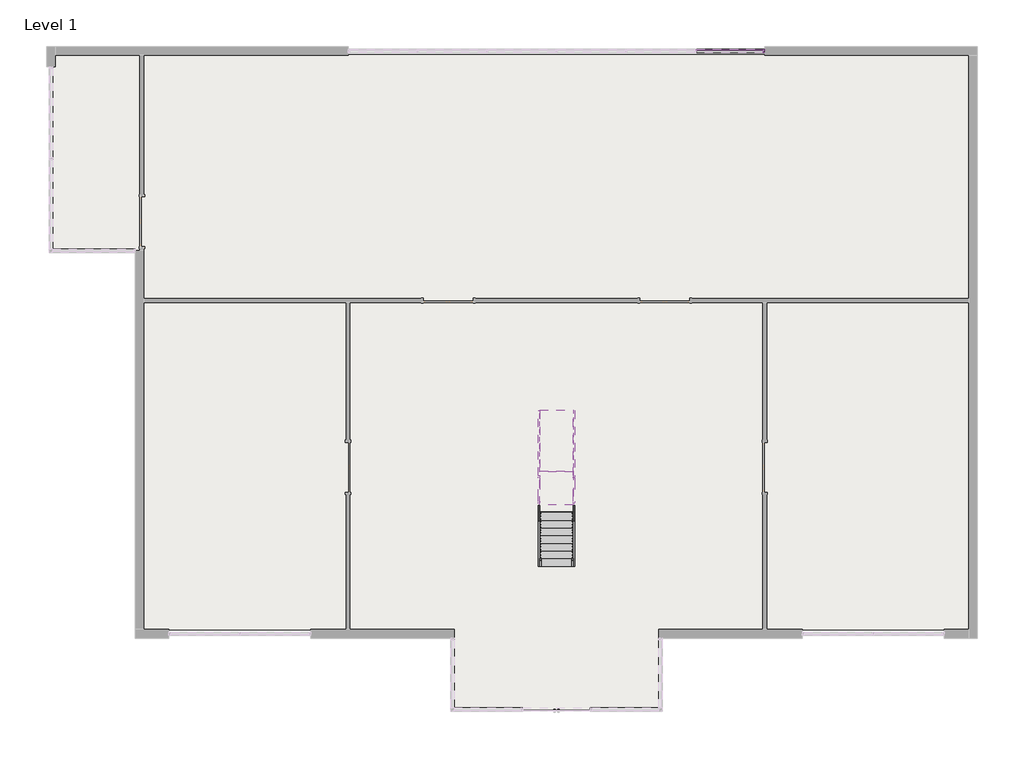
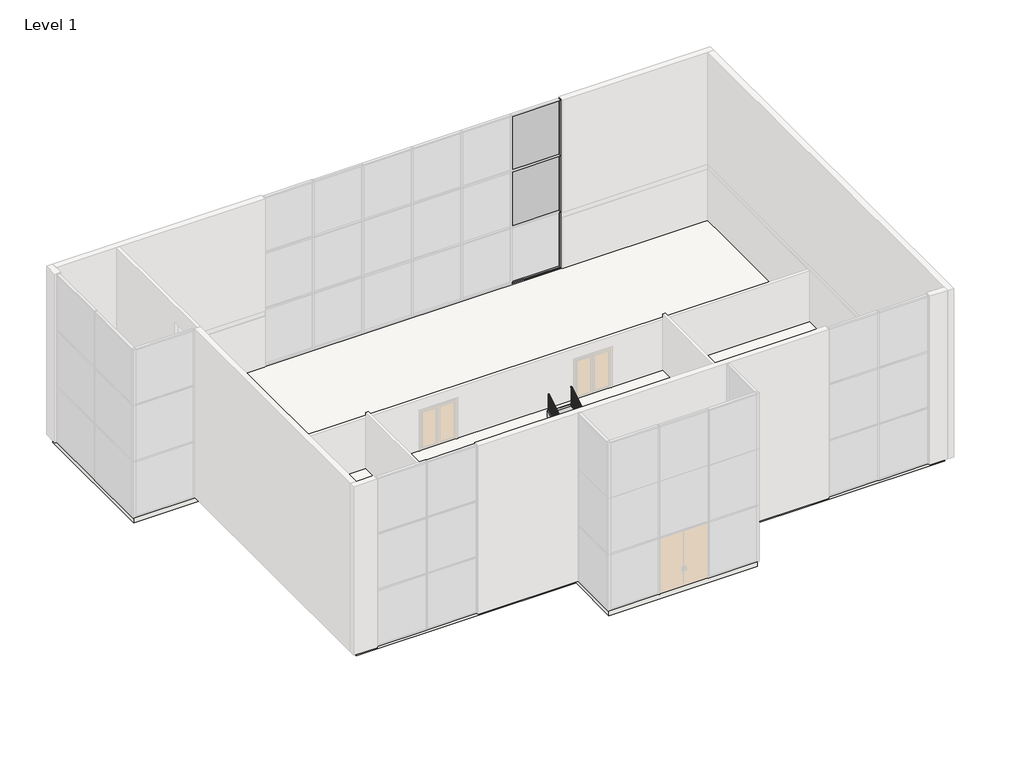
# One storey, part 3 of 3: 10 members, 2 plates, 2 railings, 2 slabs, 2 stair flights.
"""IFC4 building model written with IfcOpenShell, lengths in millimetres."""

from ifc_helpers import new_model, si_unit, frame, origin, place, context, project, spatial, polyline, outline, extrude, faceted_brep, transform, mapped, element, save
from components import member_65a3e7b2, member_3f395ae9, system_panel_glazed_e83c8d5a, system_panel_glazed_f5e36016, non_monolithic_landing_5ceb7bfd, stair_flight_be3a43e4, stair_flight_0bc00e2c

model = new_model("IFC4")

# Units and contexts
model_context = context("Model", 3, world=origin())
ifc_project = project(units=[si_unit("LENGTHUNIT", "METRE", prefix="MILLI")], contexts=[model_context])

# Site, building, storey
site = spatial("IfcSite", under=ifc_project)
building = spatial("IfcBuilding", under=site)
storey = spatial("IfcBuildingStorey", under=building, Name="Level 1", Elevation=0.0)

# Members
placement = place(None, origin())
member_shape = member_65a3e7b2(model_context)
element("IfcMember", 1, ObjectType="Rectangular Mullion : 2.5\" x 5\" rectangular", at=placement, inside=storey, context=model_context, shape_type="MappedRepresentation", body=[
    mapped(member_shape, transform((4467.582618, 15753.5983604, 0.0), x_axis=(0.0, 0.0, -1.0), y_axis=(0.0, 1.0, 0.0), z_axis=(1.0, 0.0, 0.0))),
])
member_2_shape = member_3f395ae9(model_context)
element("IfcMember", 2, ObjectType="Rectangular Mullion : 2.5\" x 5\" rectangular", at=placement, inside=storey, context=model_context, shape_type="MappedRepresentation", body=[
    mapped(member_2_shape, transform((4531.082618, 15753.5983604, 9144.0), x_axis=(1.0, 0.0, 0.0), y_axis=(0.0, 1.0, 0.0), z_axis=(0.0, 0.0, 1.0))),
])
element("IfcMember", 3, ObjectType="Rectangular Mullion : 2.5\" x 5\" rectangular", at=placement, inside=storey, context=model_context, shape_type="MappedRepresentation", body=[
    mapped(member_2_shape, transform((4531.082618, 15753.5983604, 3048.0), x_axis=(1.0, 0.0, 0.0), y_axis=(0.0, 1.0, 0.0), z_axis=(0.0, 0.0, 1.0))),
])
element("IfcMember", 4, ObjectType="Rectangular Mullion : 2.5\" x 5\" rectangular", at=placement, inside=storey, context=model_context, shape_type="MappedRepresentation", body=[
    mapped(member_2_shape, transform((4531.082618, 15753.5983604, 6096.0), x_axis=(1.0, 0.0, 0.0), y_axis=(0.0, 1.0, 0.0), z_axis=(0.0, 0.0, 1.0))),
])
element("IfcMember", 5, ObjectType="Stringer - 2\" Width", at=placement, inside=storey, context=model_context, shape_type="SweptSolid", body=[
    extrude(outline(polyline([(-3106.7224648, 0.0), (-3106.7224648, 212.114512), (-816.3814095, 1600.2), (-731.226953, 1295.4), (-2868.636953, 0.0), (-3106.7224648, 0.0)])), frame((-3749.317382, 0.0, 0.0), z_axis=(1.0, 0.0, 0.0), x_axis=(0.0, 1.0, 0.0)), (0.0, 0.0, 1.0), 50.8),
])
element("IfcMember", 6, ObjectType="Stringer - 2\" Width", at=placement, inside=storey, context=model_context, shape_type="SweptSolid", body=[
    extrude(outline(polyline([(-3106.7224648, 0.0), (-3106.7224648, 212.114512), (-816.3814095, 1600.2), (-731.226953, 1295.4), (-2868.636953, 0.0), (-3106.7224648, 0.0)])), frame((-2479.317382, 0.0, 0.0), z_axis=(1.0, 0.0, 0.0), x_axis=(0.0, 1.0, 0.0)), (0.0, 0.0, 1.0), 50.8),
])
element("IfcMember", 7, ObjectType="Stringer - 2\" Width", at=placement, inside=storey, context=model_context, shape_type="SweptSolid", body=[
    extrude(outline(polyline([(208.573047, 1295.4), (123.4185905, 1600.2), (2582.8775352, 3090.7811786), (2582.8775352, 2734.3724171), (208.573047, 1295.4)])), frame((-3749.317382, 0.0, 0.0), z_axis=(1.0, 0.0, 0.0), x_axis=(0.0, 1.0, 0.0)), (0.0, 0.0, 1.0), 50.8),
])
element("IfcMember", 8, ObjectType="Stringer - 2\" Width", at=placement, inside=storey, context=model_context, shape_type="SweptSolid", body=[
    extrude(outline(polyline([(208.573047, 1295.4), (123.4185905, 1600.2), (2582.8775352, 3090.7811786), (2582.8775352, 2734.3724171), (208.573047, 1295.4)])), frame((-2479.317382, 0.0, 0.0), z_axis=(1.0, 0.0, 0.0), x_axis=(0.0, 1.0, 0.0)), (0.0, 0.0, 1.0), 50.8),
])
element("IfcMember", 9, ObjectType="Stringer - 2\" Width", at=placement, inside=storey, context=model_context, shape_type="SweptSolid", body=[
    extrude(outline(polyline([(123.4185905, 1600.2), (208.573047, 1295.4), (-731.226953, 1295.4), (-816.3814095, 1600.2), (123.4185905, 1600.2)])), frame((-3749.317382, 0.0, 0.0), z_axis=(1.0, 0.0, 0.0), x_axis=(0.0, 1.0, 0.0)), (0.0, 0.0, 1.0), 50.8),
])
element("IfcMember", 10, ObjectType="Stringer - 2\" Width", at=placement, inside=storey, context=model_context, shape_type="SweptSolid", body=[
    extrude(outline(polyline([(-731.226953, 1295.4), (-816.3814095, 1600.2), (123.4185905, 1600.2), (208.573047, 1295.4), (-731.226953, 1295.4)])), frame((-2479.317382, 0.0, 0.0), z_axis=(1.0, 0.0, 0.0), x_axis=(0.0, 1.0, 0.0)), (0.0, 0.0, 1.0), 50.8),
])

# Plates
system_panel_glazed_shape = system_panel_glazed_e83c8d5a(model_context)
element("IfcPlate", 11, ObjectType="System Panel : Glazed", at=placement, inside=storey, context=model_context, shape_type="MappedRepresentation", body=[
    mapped(system_panel_glazed_shape, transform((3245.2076179, 15753.5983604, 6127.75), x_axis=(-1.0, 0.0, 0.0), y_axis=(0.0, -1.0, 0.0), z_axis=(0.0, 0.0, 1.0))),
])
system_panel_glazed_2_shape = system_panel_glazed_f5e36016(model_context)
element("IfcPlate", 12, ObjectType="System Panel : Glazed", at=placement, inside=storey, context=model_context, shape_type="MappedRepresentation", body=[
    mapped(system_panel_glazed_2_shape, transform((3245.2076179, 15753.5983604, 3079.75), x_axis=(-1.0, 0.0, 0.0), y_axis=(0.0, -1.0, 0.0), z_axis=(0.0, 0.0, 1.0))),
])

# Railings
element("IfcRailing", 13, ObjectType="Handrail - Rectangular", at=placement, inside=storey, context=model_context, shape_type="SolidModel", body=[
    faceted_brep([(-2530.117382, -3106.7224648, 1083.7333333), (-2530.117382, -3106.7224648, 1024.3318731), (-2479.317382, -3106.7224648, 1024.3318731), (-2479.317382, -3106.7224648, 1083.7333333), (-2530.117382, -871.5224648, 2438.4), (-2530.117382, -857.3300554, 2387.6), (-2479.317382, -857.3300554, 2387.6), (-2479.317382, -871.5224648, 2438.4), (-2530.117382, 68.2775352, 2438.4), (-2530.117382, 82.4699446, 2387.6), (-2479.317382, 82.4699446, 2387.6), (-2479.317382, 68.2775352, 2438.4), (-2530.117382, 347.6775352, 2607.7333333), (-2530.117382, 374.0072624, 2564.2892835), (-2479.317382, 374.0072624, 2564.2892835), (-2479.317382, 347.6775352, 2607.7333333), (-2530.117382, 2582.8775352, 3962.4), (-2479.317382, 2582.8775352, 3962.4), (-2479.317382, 2582.8775352, 3902.9985397), (-2530.117382, 2582.8775352, 3902.9985397)], [[[0, 1, 2, 3]], [[1, 0, 4, 5]], [[2, 1, 5, 6]], [[3, 2, 6, 7]], [[0, 3, 7, 4]], [[5, 4, 8, 9]], [[6, 5, 9, 10]], [[7, 6, 10, 11]], [[4, 7, 11, 8]], [[9, 8, 12, 13]], [[10, 9, 13, 14]], [[11, 10, 14, 15]], [[8, 11, 15, 12]], [[16, 17, 18, 19]], [[13, 12, 16, 19]], [[14, 13, 19, 18]], [[15, 14, 18, 17]], [[12, 15, 17, 16]]]),
    extrude(outline(polyline([(2471.7525352, 3835.6500549), (2490.8025352, 3847.1955094), (2490.8025352, 2878.6666667), (2471.7525352, 2878.6666667), (2471.7525352, 3835.6500549)])), frame((-2514.242382, 0.0, 0.0), z_axis=(1.0, 0.0, 0.0), x_axis=(0.0, 1.0, 0.0)), (0.0, 0.0, 1.0), 19.05),
    extrude(outline(polyline([(2370.1525352, 3774.0742973), (2389.2025352, 3785.6197519), (2389.2025352, 2878.6666667), (2370.1525352, 2878.6666667), (2370.1525352, 3774.0742973)])), frame((-2514.242382, 0.0, 0.0), z_axis=(1.0, 0.0, 0.0), x_axis=(0.0, 1.0, 0.0)), (0.0, 0.0, 1.0), 19.05),
    extrude(outline(polyline([(2268.5525352, 3712.4985397), (2287.6025352, 3724.0439943), (2287.6025352, 2709.3333333), (2268.5525352, 2709.3333333), (2268.5525352, 3712.4985397)])), frame((-2514.242382, 0.0, 0.0), z_axis=(1.0, 0.0, 0.0), x_axis=(0.0, 1.0, 0.0)), (0.0, 0.0, 1.0), 19.05),
    extrude(outline(polyline([(2166.9525352, 3650.9227822), (2186.0025352, 3662.4682367), (2186.0025352, 2709.3333333), (2166.9525352, 2709.3333333), (2166.9525352, 3650.9227822)])), frame((-2514.242382, 0.0, 0.0), z_axis=(1.0, 0.0, 0.0), x_axis=(0.0, 1.0, 0.0)), (0.0, 0.0, 1.0), 19.05),
    extrude(outline(polyline([(2065.3525352, 3589.3470246), (2084.4025352, 3600.8924791), (2084.4025352, 2709.3333333), (2065.3525352, 2709.3333333), (2065.3525352, 3589.3470246)])), frame((-2514.242382, 0.0, 0.0), z_axis=(1.0, 0.0, 0.0), x_axis=(0.0, 1.0, 0.0)), (0.0, 0.0, 1.0), 19.05),
    extrude(outline(polyline([(1963.7525352, 3527.771267), (1982.8025352, 3539.3167216), (1982.8025352, 2540.0), (1963.7525352, 2540.0), (1963.7525352, 3527.771267)])), frame((-2514.242382, 0.0, 0.0), z_axis=(1.0, 0.0, 0.0), x_axis=(0.0, 1.0, 0.0)), (0.0, 0.0, 1.0), 19.05),
    extrude(outline(polyline([(1862.1525352, 3466.1955094), (1881.2025352, 3477.740964), (1881.2025352, 2540.0), (1862.1525352, 2540.0), (1862.1525352, 3466.1955094)])), frame((-2514.242382, 0.0, 0.0), z_axis=(1.0, 0.0, 0.0), x_axis=(0.0, 1.0, 0.0)), (0.0, 0.0, 1.0), 19.05),
    extrude(outline(polyline([(1760.5525352, 3404.6197519), (1779.6025352, 3416.1652064), (1779.6025352, 2540.0), (1760.5525352, 2540.0), (1760.5525352, 3404.6197519)])), frame((-2514.242382, 0.0, 0.0), z_axis=(1.0, 0.0, 0.0), x_axis=(0.0, 1.0, 0.0)), (0.0, 0.0, 1.0), 19.05),
    extrude(outline(polyline([(1658.9525352, 3343.0439943), (1678.0025352, 3354.5894488), (1678.0025352, 2370.6666667), (1658.9525352, 2370.6666667), (1658.9525352, 3343.0439943)])), frame((-2514.242382, 0.0, 0.0), z_axis=(1.0, 0.0, 0.0), x_axis=(0.0, 1.0, 0.0)), (0.0, 0.0, 1.0), 19.05),
    extrude(outline(polyline([(1557.3525352, 3281.4682367), (1576.4025352, 3293.0136913), (1576.4025352, 2370.6666667), (1557.3525352, 2370.6666667), (1557.3525352, 3281.4682367)])), frame((-2514.242382, 0.0, 0.0), z_axis=(1.0, 0.0, 0.0), x_axis=(0.0, 1.0, 0.0)), (0.0, 0.0, 1.0), 19.05),
    extrude(outline(polyline([(1455.7525352, 3219.8924791), (1474.8025352, 3231.4379337), (1474.8025352, 2370.6666667), (1455.7525352, 2370.6666667), (1455.7525352, 3219.8924791)])), frame((-2514.242382, 0.0, 0.0), z_axis=(1.0, 0.0, 0.0), x_axis=(0.0, 1.0, 0.0)), (0.0, 0.0, 1.0), 19.05),
    extrude(outline(polyline([(1354.1525352, 3158.3167216), (1373.2025352, 3169.8621761), (1373.2025352, 2201.3333333), (1354.1525352, 2201.3333333), (1354.1525352, 3158.3167216)])), frame((-2514.242382, 0.0, 0.0), z_axis=(1.0, 0.0, 0.0), x_axis=(0.0, 1.0, 0.0)), (0.0, 0.0, 1.0), 19.05),
    extrude(outline(polyline([(1252.5525352, 3096.740964), (1271.6025352, 3108.2864185), (1271.6025352, 2201.3333333), (1252.5525352, 2201.3333333), (1252.5525352, 3096.740964)])), frame((-2514.242382, 0.0, 0.0), z_axis=(1.0, 0.0, 0.0), x_axis=(0.0, 1.0, 0.0)), (0.0, 0.0, 1.0), 19.05),
    extrude(outline(polyline([(1150.9525352, 3035.1652064), (1170.0025352, 3046.710661), (1170.0025352, 2032.0), (1150.9525352, 2032.0), (1150.9525352, 3035.1652064)])), frame((-2514.242382, 0.0, 0.0), z_axis=(1.0, 0.0, 0.0), x_axis=(0.0, 1.0, 0.0)), (0.0, 0.0, 1.0), 19.05),
    extrude(outline(polyline([(1049.3525352, 2973.5894488), (1068.4025352, 2985.1349034), (1068.4025352, 2032.0), (1049.3525352, 2032.0), (1049.3525352, 2973.5894488)])), frame((-2514.242382, 0.0, 0.0), z_axis=(1.0, 0.0, 0.0), x_axis=(0.0, 1.0, 0.0)), (0.0, 0.0, 1.0), 19.05),
    extrude(outline(polyline([(947.7525352, 2912.0136913), (966.8025352, 2923.5591458), (966.8025352, 2032.0), (947.7525352, 2032.0), (947.7525352, 2912.0136913)])), frame((-2514.242382, 0.0, 0.0), z_axis=(1.0, 0.0, 0.0), x_axis=(0.0, 1.0, 0.0)), (0.0, 0.0, 1.0), 19.05),
    extrude(outline(polyline([(846.1525352, 2850.4379337), (865.2025352, 2861.9833882), (865.2025352, 1862.6666667), (846.1525352, 1862.6666667), (846.1525352, 2850.4379337)])), frame((-2514.242382, 0.0, 0.0), z_axis=(1.0, 0.0, 0.0), x_axis=(0.0, 1.0, 0.0)), (0.0, 0.0, 1.0), 19.05),
    extrude(outline(polyline([(744.5525352, 2788.8621761), (763.6025352, 2800.4076307), (763.6025352, 1862.6666667), (744.5525352, 1862.6666667), (744.5525352, 2788.8621761)])), frame((-2514.242382, 0.0, 0.0), z_axis=(1.0, 0.0, 0.0), x_axis=(0.0, 1.0, 0.0)), (0.0, 0.0, 1.0), 19.05),
    extrude(outline(polyline([(642.9525352, 2727.2864185), (662.0025352, 2738.8318731), (662.0025352, 1862.6666667), (642.9525352, 1862.6666667), (642.9525352, 2727.2864185)])), frame((-2514.242382, 0.0, 0.0), z_axis=(1.0, 0.0, 0.0), x_axis=(0.0, 1.0, 0.0)), (0.0, 0.0, 1.0), 19.05),
    extrude(outline(polyline([(541.3525352, 2665.710661), (560.4025352, 2677.2561155), (560.4025352, 1693.3333333), (541.3525352, 1693.3333333), (541.3525352, 2665.710661)])), frame((-2514.242382, 0.0, 0.0), z_axis=(1.0, 0.0, 0.0), x_axis=(0.0, 1.0, 0.0)), (0.0, 0.0, 1.0), 19.05),
    extrude(outline(polyline([(439.7525352, 2604.1349034), (458.8025352, 2615.6803579), (458.8025352, 1693.3333333), (439.7525352, 1693.3333333), (439.7525352, 2604.1349034)])), frame((-2514.242382, 0.0, 0.0), z_axis=(1.0, 0.0, 0.0), x_axis=(0.0, 1.0, 0.0)), (0.0, 0.0, 1.0), 19.05),
    extrude(outline(polyline([(236.5525352, 2480.9833882), (255.6025352, 2492.5288428), (255.6025352, 1524.0), (236.5525352, 1524.0), (236.5525352, 2480.9833882)])), frame((-2514.242382, 0.0, 0.0), z_axis=(1.0, 0.0, 0.0), x_axis=(0.0, 1.0, 0.0)), (0.0, 0.0, 1.0), 19.05),
    extrude(outline(polyline([(134.9525352, 2419.4076307), (154.0025352, 2430.9530852), (154.0025352, 1524.0), (134.9525352, 1524.0), (134.9525352, 2419.4076307)])), frame((-2514.242382, 0.0, 0.0), z_axis=(1.0, 0.0, 0.0), x_axis=(0.0, 1.0, 0.0)), (0.0, 0.0, 1.0), 19.05),
    extrude(outline(polyline([(-2495.192382, 33.3525352), (-2514.242382, 33.3525352), (-2514.242382, 52.4025352), (-2495.192382, 52.4025352), (-2495.192382, 33.3525352)])), frame((0.0, 0.0, 1524.0), z_axis=(0.0, 0.0, 1.0), x_axis=(1.0, 0.0, 0.0)), (0.0, 0.0, 1.0), 863.6),
    extrude(outline(polyline([(-2495.192382, -68.2474648), (-2514.242382, -68.2474648), (-2514.242382, -49.1974648), (-2495.192382, -49.1974648), (-2495.192382, -68.2474648)])), frame((0.0, 0.0, 1524.0), z_axis=(0.0, 0.0, 1.0), x_axis=(1.0, 0.0, 0.0)), (0.0, 0.0, 1.0), 863.6),
    extrude(outline(polyline([(-2495.192382, -169.8474648), (-2514.242382, -169.8474648), (-2514.242382, -150.7974648), (-2495.192382, -150.7974648), (-2495.192382, -169.8474648)])), frame((0.0, 0.0, 1524.0), z_axis=(0.0, 0.0, 1.0), x_axis=(1.0, 0.0, 0.0)), (0.0, 0.0, 1.0), 863.6),
    extrude(outline(polyline([(-2495.192382, -271.4474648), (-2514.242382, -271.4474648), (-2514.242382, -252.3974648), (-2495.192382, -252.3974648), (-2495.192382, -271.4474648)])), frame((0.0, 0.0, 1524.0), z_axis=(0.0, 0.0, 1.0), x_axis=(1.0, 0.0, 0.0)), (0.0, 0.0, 1.0), 863.6),
    extrude(outline(polyline([(-2495.192382, -373.0474648), (-2514.242382, -373.0474648), (-2514.242382, -353.9974648), (-2495.192382, -353.9974648), (-2495.192382, -373.0474648)])), frame((0.0, 0.0, 1524.0), z_axis=(0.0, 0.0, 1.0), x_axis=(1.0, 0.0, 0.0)), (0.0, 0.0, 1.0), 863.6),
    extrude(outline(polyline([(-2495.192382, -474.6474648), (-2514.242382, -474.6474648), (-2514.242382, -455.5974648), (-2495.192382, -455.5974648), (-2495.192382, -474.6474648)])), frame((0.0, 0.0, 1524.0), z_axis=(0.0, 0.0, 1.0), x_axis=(1.0, 0.0, 0.0)), (0.0, 0.0, 1.0), 863.6),
    extrude(outline(polyline([(-2495.192382, -576.2474648), (-2514.242382, -576.2474648), (-2514.242382, -557.1974648), (-2495.192382, -557.1974648), (-2495.192382, -576.2474648)])), frame((0.0, 0.0, 1524.0), z_axis=(0.0, 0.0, 1.0), x_axis=(1.0, 0.0, 0.0)), (0.0, 0.0, 1.0), 863.6),
    extrude(outline(polyline([(-2495.192382, -677.8474648), (-2514.242382, -677.8474648), (-2514.242382, -658.7974648), (-2495.192382, -658.7974648), (-2495.192382, -677.8474648)])), frame((0.0, 0.0, 1524.0), z_axis=(0.0, 0.0, 1.0), x_axis=(1.0, 0.0, 0.0)), (0.0, 0.0, 1.0), 863.6),
    extrude(outline(polyline([(-2495.192382, -779.4474648), (-2514.242382, -779.4474648), (-2514.242382, -760.3974648), (-2495.192382, -760.3974648), (-2495.192382, -779.4474648)])), frame((0.0, 0.0, 1524.0), z_axis=(0.0, 0.0, 1.0), x_axis=(1.0, 0.0, 0.0)), (0.0, 0.0, 1.0), 863.6),
    extrude(outline(polyline([(-982.6474648, 2311.6500549), (-963.5974648, 2323.1955094), (-963.5974648, 1354.6666667), (-982.6474648, 1354.6666667), (-982.6474648, 2311.6500549)])), frame((-2514.242382, 0.0, 0.0), z_axis=(1.0, 0.0, 0.0), x_axis=(0.0, 1.0, 0.0)), (0.0, 0.0, 1.0), 19.05),
    extrude(outline(polyline([(-1084.2474648, 2250.0742973), (-1065.1974648, 2261.6197519), (-1065.1974648, 1354.6666667), (-1084.2474648, 1354.6666667), (-1084.2474648, 2250.0742973)])), frame((-2514.242382, 0.0, 0.0), z_axis=(1.0, 0.0, 0.0), x_axis=(0.0, 1.0, 0.0)), (0.0, 0.0, 1.0), 19.05),
    extrude(outline(polyline([(-1185.8474648, 2188.4985397), (-1166.7974648, 2200.0439943), (-1166.7974648, 1185.3333333), (-1185.8474648, 1185.3333333), (-1185.8474648, 2188.4985397)])), frame((-2514.242382, 0.0, 0.0), z_axis=(1.0, 0.0, 0.0), x_axis=(0.0, 1.0, 0.0)), (0.0, 0.0, 1.0), 19.05),
    extrude(outline(polyline([(-1287.4474648, 2126.9227822), (-1268.3974648, 2138.4682367), (-1268.3974648, 1185.3333333), (-1287.4474648, 1185.3333333), (-1287.4474648, 2126.9227822)])), frame((-2514.242382, 0.0, 0.0), z_axis=(1.0, 0.0, 0.0), x_axis=(0.0, 1.0, 0.0)), (0.0, 0.0, 1.0), 19.05),
    extrude(outline(polyline([(-1389.0474648, 2065.3470246), (-1369.9974648, 2076.8924791), (-1369.9974648, 1185.3333333), (-1389.0474648, 1185.3333333), (-1389.0474648, 2065.3470246)])), frame((-2514.242382, 0.0, 0.0), z_axis=(1.0, 0.0, 0.0), x_axis=(0.0, 1.0, 0.0)), (0.0, 0.0, 1.0), 19.05),
    extrude(outline(polyline([(-1490.6474648, 2003.771267), (-1471.5974648, 2015.3167216), (-1471.5974648, 1016.0), (-1490.6474648, 1016.0), (-1490.6474648, 2003.771267)])), frame((-2514.242382, 0.0, 0.0), z_axis=(1.0, 0.0, 0.0), x_axis=(0.0, 1.0, 0.0)), (0.0, 0.0, 1.0), 19.05),
    extrude(outline(polyline([(-1592.2474648, 1942.1955094), (-1573.1974648, 1953.740964), (-1573.1974648, 1016.0), (-1592.2474648, 1016.0), (-1592.2474648, 1942.1955094)])), frame((-2514.242382, 0.0, 0.0), z_axis=(1.0, 0.0, 0.0), x_axis=(0.0, 1.0, 0.0)), (0.0, 0.0, 1.0), 19.05),
    extrude(outline(polyline([(-1693.8474648, 1880.6197519), (-1674.7974648, 1892.1652064), (-1674.7974648, 1016.0), (-1693.8474648, 1016.0), (-1693.8474648, 1880.6197519)])), frame((-2514.242382, 0.0, 0.0), z_axis=(1.0, 0.0, 0.0), x_axis=(0.0, 1.0, 0.0)), (0.0, 0.0, 1.0), 19.05),
    extrude(outline(polyline([(-1795.4474648, 1819.0439943), (-1776.3974648, 1830.5894488), (-1776.3974648, 846.6666667), (-1795.4474648, 846.6666667), (-1795.4474648, 1819.0439943)])), frame((-2514.242382, 0.0, 0.0), z_axis=(1.0, 0.0, 0.0), x_axis=(0.0, 1.0, 0.0)), (0.0, 0.0, 1.0), 19.05),
    extrude(outline(polyline([(-1897.0474648, 1757.4682367), (-1877.9974648, 1769.0136913), (-1877.9974648, 846.6666667), (-1897.0474648, 846.6666667), (-1897.0474648, 1757.4682367)])), frame((-2514.242382, 0.0, 0.0), z_axis=(1.0, 0.0, 0.0), x_axis=(0.0, 1.0, 0.0)), (0.0, 0.0, 1.0), 19.05),
    extrude(outline(polyline([(-1998.6474648, 1695.8924791), (-1979.5974648, 1707.4379337), (-1979.5974648, 846.6666667), (-1998.6474648, 846.6666667), (-1998.6474648, 1695.8924791)])), frame((-2514.242382, 0.0, 0.0), z_axis=(1.0, 0.0, 0.0), x_axis=(0.0, 1.0, 0.0)), (0.0, 0.0, 1.0), 19.05),
    extrude(outline(polyline([(-2100.2474648, 1634.3167216), (-2081.1974648, 1645.8621761), (-2081.1974648, 677.3333333), (-2100.2474648, 677.3333333), (-2100.2474648, 1634.3167216)])), frame((-2514.242382, 0.0, 0.0), z_axis=(1.0, 0.0, 0.0), x_axis=(0.0, 1.0, 0.0)), (0.0, 0.0, 1.0), 19.05),
    extrude(outline(polyline([(-2201.8474648, 1572.740964), (-2182.7974648, 1584.2864185), (-2182.7974648, 677.3333333), (-2201.8474648, 677.3333333), (-2201.8474648, 1572.740964)])), frame((-2514.242382, 0.0, 0.0), z_axis=(1.0, 0.0, 0.0), x_axis=(0.0, 1.0, 0.0)), (0.0, 0.0, 1.0), 19.05),
    extrude(outline(polyline([(-2303.4474648, 1511.1652064), (-2284.3974648, 1522.710661), (-2284.3974648, 508.0), (-2303.4474648, 508.0), (-2303.4474648, 1511.1652064)])), frame((-2514.242382, 0.0, 0.0), z_axis=(1.0, 0.0, 0.0), x_axis=(0.0, 1.0, 0.0)), (0.0, 0.0, 1.0), 19.05),
    extrude(outline(polyline([(-2405.0474648, 1449.5894488), (-2385.9974648, 1461.1349034), (-2385.9974648, 508.0), (-2405.0474648, 508.0), (-2405.0474648, 1449.5894488)])), frame((-2514.242382, 0.0, 0.0), z_axis=(1.0, 0.0, 0.0), x_axis=(0.0, 1.0, 0.0)), (0.0, 0.0, 1.0), 19.05),
    extrude(outline(polyline([(-2506.6474648, 1388.0136913), (-2487.5974648, 1399.5591458), (-2487.5974648, 508.0), (-2506.6474648, 508.0), (-2506.6474648, 1388.0136913)])), frame((-2514.242382, 0.0, 0.0), z_axis=(1.0, 0.0, 0.0), x_axis=(0.0, 1.0, 0.0)), (0.0, 0.0, 1.0), 19.05),
    extrude(outline(polyline([(-2608.2474648, 1326.4379337), (-2589.1974648, 1337.9833882), (-2589.1974648, 338.6666667), (-2608.2474648, 338.6666667), (-2608.2474648, 1326.4379337)])), frame((-2514.242382, 0.0, 0.0), z_axis=(1.0, 0.0, 0.0), x_axis=(0.0, 1.0, 0.0)), (0.0, 0.0, 1.0), 19.05),
    extrude(outline(polyline([(-2709.8474648, 1264.8621761), (-2690.7974648, 1276.4076307), (-2690.7974648, 338.6666667), (-2709.8474648, 338.6666667), (-2709.8474648, 1264.8621761)])), frame((-2514.242382, 0.0, 0.0), z_axis=(1.0, 0.0, 0.0), x_axis=(0.0, 1.0, 0.0)), (0.0, 0.0, 1.0), 19.05),
    extrude(outline(polyline([(-2811.4474648, 1203.2864185), (-2792.3974648, 1214.8318731), (-2792.3974648, 338.6666667), (-2811.4474648, 338.6666667), (-2811.4474648, 1203.2864185)])), frame((-2514.242382, 0.0, 0.0), z_axis=(1.0, 0.0, 0.0), x_axis=(0.0, 1.0, 0.0)), (0.0, 0.0, 1.0), 19.05),
    extrude(outline(polyline([(-2913.0474648, 1141.710661), (-2893.9974648, 1153.2561155), (-2893.9974648, 169.3333333), (-2913.0474648, 169.3333333), (-2913.0474648, 1141.710661)])), frame((-2514.242382, 0.0, 0.0), z_axis=(1.0, 0.0, 0.0), x_axis=(0.0, 1.0, 0.0)), (0.0, 0.0, 1.0), 19.05),
    extrude(outline(polyline([(-3014.6474648, 1080.1349034), (-2995.5974648, 1091.6803579), (-2995.5974648, 169.3333333), (-3014.6474648, 169.3333333), (-3014.6474648, 1080.1349034)])), frame((-2514.242382, 0.0, 0.0), z_axis=(1.0, 0.0, 0.0), x_axis=(0.0, 1.0, 0.0)), (0.0, 0.0, 1.0), 19.05),
    extrude(outline(polyline([(338.1525352, 2542.5591458), (357.2025352, 2554.1046004), (357.2025352, 1524.0), (338.1525352, 1524.0), (338.1525352, 2542.5591458)])), frame((-2514.242382, 0.0, 0.0), z_axis=(1.0, 0.0, 0.0), x_axis=(0.0, 1.0, 0.0)), (0.0, 0.0, 1.0), 19.05),
    extrude(outline(polyline([(-881.0474648, 2373.2258125), (-861.9974648, 2384.771267), (-861.9974648, 1524.0), (-881.0474648, 1524.0), (-881.0474648, 2373.2258125)])), frame((-2514.242382, 0.0, 0.0), z_axis=(1.0, 0.0, 0.0), x_axis=(0.0, 1.0, 0.0)), (0.0, 0.0, 1.0), 19.05),
    extrude(outline(polyline([(2563.8275352, 3891.4530852), (2582.8775352, 3902.9985397), (2582.8775352, 2878.6666667), (2563.8275352, 2878.6666667), (2563.8275352, 3891.4530852)])), frame((-2514.242382, 0.0, 0.0), z_axis=(1.0, 0.0, 0.0), x_axis=(0.0, 1.0, 0.0)), (0.0, 0.0, 1.0), 19.05),
    extrude(outline(polyline([(-3106.7224648, 1024.3318731), (-3087.6724648, 1035.8773276), (-3087.6724648, 169.3333333), (-3106.7224648, 169.3333333), (-3106.7224648, 1024.3318731)])), frame((-2514.242382, 0.0, 0.0), z_axis=(1.0, 0.0, 0.0), x_axis=(0.0, 1.0, 0.0)), (0.0, 0.0, 1.0), 19.05),
])
element("IfcRailing", 14, ObjectType="Handrail - Rectangular", at=placement, inside=storey, context=model_context, shape_type="SolidModel", body=[
    faceted_brep([(-3698.517382, -3106.7224648, 1083.7333333), (-3698.517382, -3106.7224648, 1024.3318731), (-3647.717382, -3106.7224648, 1024.3318731), (-3647.717382, -3106.7224648, 1083.7333333), (-3698.517382, -871.5224648, 2438.4), (-3698.517382, -857.3300554, 2387.6), (-3647.717382, -857.3300554, 2387.6), (-3647.717382, -871.5224648, 2438.4), (-3698.517382, 68.2775352, 2438.4), (-3698.517382, 82.4699446, 2387.6), (-3647.717382, 82.4699446, 2387.6), (-3647.717382, 68.2775352, 2438.4), (-3698.517382, 347.6775352, 2607.7333333), (-3698.517382, 374.0072624, 2564.2892835), (-3647.717382, 374.0072624, 2564.2892835), (-3647.717382, 347.6775352, 2607.7333333), (-3698.517382, 2582.8775352, 3962.4), (-3647.717382, 2582.8775352, 3962.4), (-3647.717382, 2582.8775352, 3902.9985397), (-3698.517382, 2582.8775352, 3902.9985397)], [[[0, 1, 2, 3]], [[1, 0, 4, 5]], [[2, 1, 5, 6]], [[3, 2, 6, 7]], [[0, 3, 7, 4]], [[5, 4, 8, 9]], [[6, 5, 9, 10]], [[7, 6, 10, 11]], [[4, 7, 11, 8]], [[9, 8, 12, 13]], [[10, 9, 13, 14]], [[11, 10, 14, 15]], [[8, 11, 15, 12]], [[16, 17, 18, 19]], [[13, 12, 16, 19]], [[14, 13, 19, 18]], [[15, 14, 18, 17]], [[12, 15, 17, 16]]]),
    extrude(outline(polyline([(2490.8025352, 3847.1955094), (2490.8025352, 2878.6666667), (2471.7525352, 2878.6666667), (2471.7525352, 3835.6500549), (2490.8025352, 3847.1955094)])), frame((-3682.642382, 0.0, 0.0), z_axis=(1.0, 0.0, 0.0), x_axis=(0.0, 1.0, 0.0)), (0.0, 0.0, 1.0), 19.05),
    extrude(outline(polyline([(2389.2025352, 3785.6197519), (2389.2025352, 2878.6666667), (2370.1525352, 2878.6666667), (2370.1525352, 3774.0742973), (2389.2025352, 3785.6197519)])), frame((-3682.642382, 0.0, 0.0), z_axis=(1.0, 0.0, 0.0), x_axis=(0.0, 1.0, 0.0)), (0.0, 0.0, 1.0), 19.05),
    extrude(outline(polyline([(2287.6025352, 3724.0439943), (2287.6025352, 2709.3333333), (2268.5525352, 2709.3333333), (2268.5525352, 3712.4985397), (2287.6025352, 3724.0439943)])), frame((-3682.642382, 0.0, 0.0), z_axis=(1.0, 0.0, 0.0), x_axis=(0.0, 1.0, 0.0)), (0.0, 0.0, 1.0), 19.05),
    extrude(outline(polyline([(2186.0025352, 3662.4682367), (2186.0025352, 2709.3333333), (2166.9525352, 2709.3333333), (2166.9525352, 3650.9227822), (2186.0025352, 3662.4682367)])), frame((-3682.642382, 0.0, 0.0), z_axis=(1.0, 0.0, 0.0), x_axis=(0.0, 1.0, 0.0)), (0.0, 0.0, 1.0), 19.05),
    extrude(outline(polyline([(2084.4025352, 3600.8924791), (2084.4025352, 2709.3333333), (2065.3525352, 2709.3333333), (2065.3525352, 3589.3470246), (2084.4025352, 3600.8924791)])), frame((-3682.642382, 0.0, 0.0), z_axis=(1.0, 0.0, 0.0), x_axis=(0.0, 1.0, 0.0)), (0.0, 0.0, 1.0), 19.05),
    extrude(outline(polyline([(1982.8025352, 3539.3167216), (1982.8025352, 2540.0), (1963.7525352, 2540.0), (1963.7525352, 3527.771267), (1982.8025352, 3539.3167216)])), frame((-3682.642382, 0.0, 0.0), z_axis=(1.0, 0.0, 0.0), x_axis=(0.0, 1.0, 0.0)), (0.0, 0.0, 1.0), 19.05),
    extrude(outline(polyline([(1881.2025352, 3477.740964), (1881.2025352, 2540.0), (1862.1525352, 2540.0), (1862.1525352, 3466.1955094), (1881.2025352, 3477.740964)])), frame((-3682.642382, 0.0, 0.0), z_axis=(1.0, 0.0, 0.0), x_axis=(0.0, 1.0, 0.0)), (0.0, 0.0, 1.0), 19.05),
    extrude(outline(polyline([(1779.6025352, 3416.1652064), (1779.6025352, 2540.0), (1760.5525352, 2540.0), (1760.5525352, 3404.6197519), (1779.6025352, 3416.1652064)])), frame((-3682.642382, 0.0, 0.0), z_axis=(1.0, 0.0, 0.0), x_axis=(0.0, 1.0, 0.0)), (0.0, 0.0, 1.0), 19.05),
    extrude(outline(polyline([(1678.0025352, 3354.5894488), (1678.0025352, 2370.6666667), (1658.9525352, 2370.6666667), (1658.9525352, 3343.0439943), (1678.0025352, 3354.5894488)])), frame((-3682.642382, 0.0, 0.0), z_axis=(1.0, 0.0, 0.0), x_axis=(0.0, 1.0, 0.0)), (0.0, 0.0, 1.0), 19.05),
    extrude(outline(polyline([(1576.4025352, 3293.0136913), (1576.4025352, 2370.6666667), (1557.3525352, 2370.6666667), (1557.3525352, 3281.4682367), (1576.4025352, 3293.0136913)])), frame((-3682.642382, 0.0, 0.0), z_axis=(1.0, 0.0, 0.0), x_axis=(0.0, 1.0, 0.0)), (0.0, 0.0, 1.0), 19.05),
    extrude(outline(polyline([(1474.8025352, 3231.4379337), (1474.8025352, 2370.6666667), (1455.7525352, 2370.6666667), (1455.7525352, 3219.8924791), (1474.8025352, 3231.4379337)])), frame((-3682.642382, 0.0, 0.0), z_axis=(1.0, 0.0, 0.0), x_axis=(0.0, 1.0, 0.0)), (0.0, 0.0, 1.0), 19.05),
    extrude(outline(polyline([(1373.2025352, 3169.8621761), (1373.2025352, 2201.3333333), (1354.1525352, 2201.3333333), (1354.1525352, 3158.3167216), (1373.2025352, 3169.8621761)])), frame((-3682.642382, 0.0, 0.0), z_axis=(1.0, 0.0, 0.0), x_axis=(0.0, 1.0, 0.0)), (0.0, 0.0, 1.0), 19.05),
    extrude(outline(polyline([(1271.6025352, 3108.2864185), (1271.6025352, 2201.3333333), (1252.5525352, 2201.3333333), (1252.5525352, 3096.740964), (1271.6025352, 3108.2864185)])), frame((-3682.642382, 0.0, 0.0), z_axis=(1.0, 0.0, 0.0), x_axis=(0.0, 1.0, 0.0)), (0.0, 0.0, 1.0), 19.05),
    extrude(outline(polyline([(1170.0025352, 3046.710661), (1170.0025352, 2032.0), (1150.9525352, 2032.0), (1150.9525352, 3035.1652064), (1170.0025352, 3046.710661)])), frame((-3682.642382, 0.0, 0.0), z_axis=(1.0, 0.0, 0.0), x_axis=(0.0, 1.0, 0.0)), (0.0, 0.0, 1.0), 19.05),
    extrude(outline(polyline([(1068.4025352, 2985.1349034), (1068.4025352, 2032.0), (1049.3525352, 2032.0), (1049.3525352, 2973.5894488), (1068.4025352, 2985.1349034)])), frame((-3682.642382, 0.0, 0.0), z_axis=(1.0, 0.0, 0.0), x_axis=(0.0, 1.0, 0.0)), (0.0, 0.0, 1.0), 19.05),
    extrude(outline(polyline([(966.8025352, 2923.5591458), (966.8025352, 2032.0), (947.7525352, 2032.0), (947.7525352, 2912.0136913), (966.8025352, 2923.5591458)])), frame((-3682.642382, 0.0, 0.0), z_axis=(1.0, 0.0, 0.0), x_axis=(0.0, 1.0, 0.0)), (0.0, 0.0, 1.0), 19.05),
    extrude(outline(polyline([(865.2025352, 2861.9833882), (865.2025352, 1862.6666667), (846.1525352, 1862.6666667), (846.1525352, 2850.4379337), (865.2025352, 2861.9833882)])), frame((-3682.642382, 0.0, 0.0), z_axis=(1.0, 0.0, 0.0), x_axis=(0.0, 1.0, 0.0)), (0.0, 0.0, 1.0), 19.05),
    extrude(outline(polyline([(763.6025352, 2800.4076307), (763.6025352, 1862.6666667), (744.5525352, 1862.6666667), (744.5525352, 2788.8621761), (763.6025352, 2800.4076307)])), frame((-3682.642382, 0.0, 0.0), z_axis=(1.0, 0.0, 0.0), x_axis=(0.0, 1.0, 0.0)), (0.0, 0.0, 1.0), 19.05),
    extrude(outline(polyline([(662.0025352, 2738.8318731), (662.0025352, 1862.6666667), (642.9525352, 1862.6666667), (642.9525352, 2727.2864185), (662.0025352, 2738.8318731)])), frame((-3682.642382, 0.0, 0.0), z_axis=(1.0, 0.0, 0.0), x_axis=(0.0, 1.0, 0.0)), (0.0, 0.0, 1.0), 19.05),
    extrude(outline(polyline([(560.4025352, 2677.2561155), (560.4025352, 1693.3333333), (541.3525352, 1693.3333333), (541.3525352, 2665.710661), (560.4025352, 2677.2561155)])), frame((-3682.642382, 0.0, 0.0), z_axis=(1.0, 0.0, 0.0), x_axis=(0.0, 1.0, 0.0)), (0.0, 0.0, 1.0), 19.05),
    extrude(outline(polyline([(458.8025352, 2615.6803579), (458.8025352, 1693.3333333), (439.7525352, 1693.3333333), (439.7525352, 2604.1349034), (458.8025352, 2615.6803579)])), frame((-3682.642382, 0.0, 0.0), z_axis=(1.0, 0.0, 0.0), x_axis=(0.0, 1.0, 0.0)), (0.0, 0.0, 1.0), 19.05),
    extrude(outline(polyline([(255.6025352, 2492.5288428), (255.6025352, 1524.0), (236.5525352, 1524.0), (236.5525352, 2480.9833882), (255.6025352, 2492.5288428)])), frame((-3682.642382, 0.0, 0.0), z_axis=(1.0, 0.0, 0.0), x_axis=(0.0, 1.0, 0.0)), (0.0, 0.0, 1.0), 19.05),
    extrude(outline(polyline([(154.0025352, 2430.9530852), (154.0025352, 1524.0), (134.9525352, 1524.0), (134.9525352, 2419.4076307), (154.0025352, 2430.9530852)])), frame((-3682.642382, 0.0, 0.0), z_axis=(1.0, 0.0, 0.0), x_axis=(0.0, 1.0, 0.0)), (0.0, 0.0, 1.0), 19.05),
    extrude(outline(polyline([(-3682.642382, 33.3525352), (-3682.642382, 52.4025352), (-3663.592382, 52.4025352), (-3663.592382, 33.3525352), (-3682.642382, 33.3525352)])), frame((0.0, 0.0, 1524.0), z_axis=(0.0, 0.0, 1.0), x_axis=(1.0, 0.0, 0.0)), (0.0, 0.0, 1.0), 863.6),
    extrude(outline(polyline([(-3682.642382, -68.2474648), (-3682.642382, -49.1974648), (-3663.592382, -49.1974648), (-3663.592382, -68.2474648), (-3682.642382, -68.2474648)])), frame((0.0, 0.0, 1524.0), z_axis=(0.0, 0.0, 1.0), x_axis=(1.0, 0.0, 0.0)), (0.0, 0.0, 1.0), 863.6),
    extrude(outline(polyline([(-3682.642382, -169.8474648), (-3682.642382, -150.7974648), (-3663.592382, -150.7974648), (-3663.592382, -169.8474648), (-3682.642382, -169.8474648)])), frame((0.0, 0.0, 1524.0), z_axis=(0.0, 0.0, 1.0), x_axis=(1.0, 0.0, 0.0)), (0.0, 0.0, 1.0), 863.6),
    extrude(outline(polyline([(-3682.642382, -271.4474648), (-3682.642382, -252.3974648), (-3663.592382, -252.3974648), (-3663.592382, -271.4474648), (-3682.642382, -271.4474648)])), frame((0.0, 0.0, 1524.0), z_axis=(0.0, 0.0, 1.0), x_axis=(1.0, 0.0, 0.0)), (0.0, 0.0, 1.0), 863.6),
    extrude(outline(polyline([(-3682.642382, -373.0474648), (-3682.642382, -353.9974648), (-3663.592382, -353.9974648), (-3663.592382, -373.0474648), (-3682.642382, -373.0474648)])), frame((0.0, 0.0, 1524.0), z_axis=(0.0, 0.0, 1.0), x_axis=(1.0, 0.0, 0.0)), (0.0, 0.0, 1.0), 863.6),
    extrude(outline(polyline([(-3682.642382, -474.6474648), (-3682.642382, -455.5974648), (-3663.592382, -455.5974648), (-3663.592382, -474.6474648), (-3682.642382, -474.6474648)])), frame((0.0, 0.0, 1524.0), z_axis=(0.0, 0.0, 1.0), x_axis=(1.0, 0.0, 0.0)), (0.0, 0.0, 1.0), 863.6),
    extrude(outline(polyline([(-3682.642382, -576.2474648), (-3682.642382, -557.1974648), (-3663.592382, -557.1974648), (-3663.592382, -576.2474648), (-3682.642382, -576.2474648)])), frame((0.0, 0.0, 1524.0), z_axis=(0.0, 0.0, 1.0), x_axis=(1.0, 0.0, 0.0)), (0.0, 0.0, 1.0), 863.6),
    extrude(outline(polyline([(-3682.642382, -677.8474648), (-3682.642382, -658.7974648), (-3663.592382, -658.7974648), (-3663.592382, -677.8474648), (-3682.642382, -677.8474648)])), frame((0.0, 0.0, 1524.0), z_axis=(0.0, 0.0, 1.0), x_axis=(1.0, 0.0, 0.0)), (0.0, 0.0, 1.0), 863.6),
    extrude(outline(polyline([(-3682.642382, -779.4474648), (-3682.642382, -760.3974648), (-3663.592382, -760.3974648), (-3663.592382, -779.4474648), (-3682.642382, -779.4474648)])), frame((0.0, 0.0, 1524.0), z_axis=(0.0, 0.0, 1.0), x_axis=(1.0, 0.0, 0.0)), (0.0, 0.0, 1.0), 863.6),
    extrude(outline(polyline([(-963.5974648, 2323.1955094), (-963.5974648, 1354.6666667), (-982.6474648, 1354.6666667), (-982.6474648, 2311.6500549), (-963.5974648, 2323.1955094)])), frame((-3682.642382, 0.0, 0.0), z_axis=(1.0, 0.0, 0.0), x_axis=(0.0, 1.0, 0.0)), (0.0, 0.0, 1.0), 19.05),
    extrude(outline(polyline([(-1065.1974648, 2261.6197519), (-1065.1974648, 1354.6666667), (-1084.2474648, 1354.6666667), (-1084.2474648, 2250.0742973), (-1065.1974648, 2261.6197519)])), frame((-3682.642382, 0.0, 0.0), z_axis=(1.0, 0.0, 0.0), x_axis=(0.0, 1.0, 0.0)), (0.0, 0.0, 1.0), 19.05),
    extrude(outline(polyline([(-1166.7974648, 2200.0439943), (-1166.7974648, 1185.3333333), (-1185.8474648, 1185.3333333), (-1185.8474648, 2188.4985397), (-1166.7974648, 2200.0439943)])), frame((-3682.642382, 0.0, 0.0), z_axis=(1.0, 0.0, 0.0), x_axis=(0.0, 1.0, 0.0)), (0.0, 0.0, 1.0), 19.05),
    extrude(outline(polyline([(-1268.3974648, 2138.4682367), (-1268.3974648, 1185.3333333), (-1287.4474648, 1185.3333333), (-1287.4474648, 2126.9227822), (-1268.3974648, 2138.4682367)])), frame((-3682.642382, 0.0, 0.0), z_axis=(1.0, 0.0, 0.0), x_axis=(0.0, 1.0, 0.0)), (0.0, 0.0, 1.0), 19.05),
    extrude(outline(polyline([(-1369.9974648, 2076.8924791), (-1369.9974648, 1185.3333333), (-1389.0474648, 1185.3333333), (-1389.0474648, 2065.3470246), (-1369.9974648, 2076.8924791)])), frame((-3682.642382, 0.0, 0.0), z_axis=(1.0, 0.0, 0.0), x_axis=(0.0, 1.0, 0.0)), (0.0, 0.0, 1.0), 19.05),
    extrude(outline(polyline([(-1471.5974648, 2015.3167216), (-1471.5974648, 1016.0), (-1490.6474648, 1016.0), (-1490.6474648, 2003.771267), (-1471.5974648, 2015.3167216)])), frame((-3682.642382, 0.0, 0.0), z_axis=(1.0, 0.0, 0.0), x_axis=(0.0, 1.0, 0.0)), (0.0, 0.0, 1.0), 19.05),
    extrude(outline(polyline([(-1573.1974648, 1953.740964), (-1573.1974648, 1016.0), (-1592.2474648, 1016.0), (-1592.2474648, 1942.1955094), (-1573.1974648, 1953.740964)])), frame((-3682.642382, 0.0, 0.0), z_axis=(1.0, 0.0, 0.0), x_axis=(0.0, 1.0, 0.0)), (0.0, 0.0, 1.0), 19.05),
    extrude(outline(polyline([(-1674.7974648, 1892.1652064), (-1674.7974648, 1016.0), (-1693.8474648, 1016.0), (-1693.8474648, 1880.6197519), (-1674.7974648, 1892.1652064)])), frame((-3682.642382, 0.0, 0.0), z_axis=(1.0, 0.0, 0.0), x_axis=(0.0, 1.0, 0.0)), (0.0, 0.0, 1.0), 19.05),
    extrude(outline(polyline([(-1776.3974648, 1830.5894488), (-1776.3974648, 846.6666667), (-1795.4474648, 846.6666667), (-1795.4474648, 1819.0439943), (-1776.3974648, 1830.5894488)])), frame((-3682.642382, 0.0, 0.0), z_axis=(1.0, 0.0, 0.0), x_axis=(0.0, 1.0, 0.0)), (0.0, 0.0, 1.0), 19.05),
    extrude(outline(polyline([(-1877.9974648, 1769.0136913), (-1877.9974648, 846.6666667), (-1897.0474648, 846.6666667), (-1897.0474648, 1757.4682367), (-1877.9974648, 1769.0136913)])), frame((-3682.642382, 0.0, 0.0), z_axis=(1.0, 0.0, 0.0), x_axis=(0.0, 1.0, 0.0)), (0.0, 0.0, 1.0), 19.05),
    extrude(outline(polyline([(-1979.5974648, 1707.4379337), (-1979.5974648, 846.6666667), (-1998.6474648, 846.6666667), (-1998.6474648, 1695.8924791), (-1979.5974648, 1707.4379337)])), frame((-3682.642382, 0.0, 0.0), z_axis=(1.0, 0.0, 0.0), x_axis=(0.0, 1.0, 0.0)), (0.0, 0.0, 1.0), 19.05),
    extrude(outline(polyline([(-2081.1974648, 1645.8621761), (-2081.1974648, 677.3333333), (-2100.2474648, 677.3333333), (-2100.2474648, 1634.3167216), (-2081.1974648, 1645.8621761)])), frame((-3682.642382, 0.0, 0.0), z_axis=(1.0, 0.0, 0.0), x_axis=(0.0, 1.0, 0.0)), (0.0, 0.0, 1.0), 19.05),
    extrude(outline(polyline([(-2182.7974648, 1584.2864185), (-2182.7974648, 677.3333333), (-2201.8474648, 677.3333333), (-2201.8474648, 1572.740964), (-2182.7974648, 1584.2864185)])), frame((-3682.642382, 0.0, 0.0), z_axis=(1.0, 0.0, 0.0), x_axis=(0.0, 1.0, 0.0)), (0.0, 0.0, 1.0), 19.05),
    extrude(outline(polyline([(-2284.3974648, 1522.710661), (-2284.3974648, 508.0), (-2303.4474648, 508.0), (-2303.4474648, 1511.1652064), (-2284.3974648, 1522.710661)])), frame((-3682.642382, 0.0, 0.0), z_axis=(1.0, 0.0, 0.0), x_axis=(0.0, 1.0, 0.0)), (0.0, 0.0, 1.0), 19.05),
    extrude(outline(polyline([(-2385.9974648, 1461.1349034), (-2385.9974648, 508.0), (-2405.0474648, 508.0), (-2405.0474648, 1449.5894488), (-2385.9974648, 1461.1349034)])), frame((-3682.642382, 0.0, 0.0), z_axis=(1.0, 0.0, 0.0), x_axis=(0.0, 1.0, 0.0)), (0.0, 0.0, 1.0), 19.05),
    extrude(outline(polyline([(-2487.5974648, 1399.5591458), (-2487.5974648, 508.0), (-2506.6474648, 508.0), (-2506.6474648, 1388.0136913), (-2487.5974648, 1399.5591458)])), frame((-3682.642382, 0.0, 0.0), z_axis=(1.0, 0.0, 0.0), x_axis=(0.0, 1.0, 0.0)), (0.0, 0.0, 1.0), 19.05),
    extrude(outline(polyline([(-2589.1974648, 1337.9833882), (-2589.1974648, 338.6666667), (-2608.2474648, 338.6666667), (-2608.2474648, 1326.4379337), (-2589.1974648, 1337.9833882)])), frame((-3682.642382, 0.0, 0.0), z_axis=(1.0, 0.0, 0.0), x_axis=(0.0, 1.0, 0.0)), (0.0, 0.0, 1.0), 19.05),
    extrude(outline(polyline([(-2690.7974648, 1276.4076307), (-2690.7974648, 338.6666667), (-2709.8474648, 338.6666667), (-2709.8474648, 1264.8621761), (-2690.7974648, 1276.4076307)])), frame((-3682.642382, 0.0, 0.0), z_axis=(1.0, 0.0, 0.0), x_axis=(0.0, 1.0, 0.0)), (0.0, 0.0, 1.0), 19.05),
    extrude(outline(polyline([(-2792.3974648, 1214.8318731), (-2792.3974648, 338.6666667), (-2811.4474648, 338.6666667), (-2811.4474648, 1203.2864185), (-2792.3974648, 1214.8318731)])), frame((-3682.642382, 0.0, 0.0), z_axis=(1.0, 0.0, 0.0), x_axis=(0.0, 1.0, 0.0)), (0.0, 0.0, 1.0), 19.05),
    extrude(outline(polyline([(-2893.9974648, 1153.2561155), (-2893.9974648, 169.3333333), (-2913.0474648, 169.3333333), (-2913.0474648, 1141.710661), (-2893.9974648, 1153.2561155)])), frame((-3682.642382, 0.0, 0.0), z_axis=(1.0, 0.0, 0.0), x_axis=(0.0, 1.0, 0.0)), (0.0, 0.0, 1.0), 19.05),
    extrude(outline(polyline([(-2995.5974648, 1091.6803579), (-2995.5974648, 169.3333333), (-3014.6474648, 169.3333333), (-3014.6474648, 1080.1349034), (-2995.5974648, 1091.6803579)])), frame((-3682.642382, 0.0, 0.0), z_axis=(1.0, 0.0, 0.0), x_axis=(0.0, 1.0, 0.0)), (0.0, 0.0, 1.0), 19.05),
    extrude(outline(polyline([(357.2025352, 2554.1046004), (357.2025352, 1524.0), (338.1525352, 1524.0), (338.1525352, 2542.5591458), (357.2025352, 2554.1046004)])), frame((-3682.642382, 0.0, 0.0), z_axis=(1.0, 0.0, 0.0), x_axis=(0.0, 1.0, 0.0)), (0.0, 0.0, 1.0), 19.05),
    extrude(outline(polyline([(-861.9974648, 2384.771267), (-861.9974648, 1524.0), (-881.0474648, 1524.0), (-881.0474648, 2373.2258125), (-861.9974648, 2384.771267)])), frame((-3682.642382, 0.0, 0.0), z_axis=(1.0, 0.0, 0.0), x_axis=(0.0, 1.0, 0.0)), (0.0, 0.0, 1.0), 19.05),
    extrude(outline(polyline([(2582.8775352, 3902.9985397), (2582.8775352, 2878.6666667), (2563.8275352, 2878.6666667), (2563.8275352, 3891.4530852), (2582.8775352, 3902.9985397)])), frame((-3682.642382, 0.0, 0.0), z_axis=(1.0, 0.0, 0.0), x_axis=(0.0, 1.0, 0.0)), (0.0, 0.0, 1.0), 19.05),
    extrude(outline(polyline([(-3087.6724648, 1035.8773276), (-3087.6724648, 169.3333333), (-3106.7224648, 169.3333333), (-3106.7224648, 1024.3318731), (-3087.6724648, 1035.8773276)])), frame((-3682.642382, 0.0, 0.0), z_axis=(1.0, 0.0, 0.0), x_axis=(0.0, 1.0, 0.0)), (0.0, 0.0, 1.0), 19.05),
])

# Slabs
element("IfcSlab", 15, ObjectType="Generic - 12\"", at=placement, inside=storey, context=model_context, shape_type="SweptSolid", body=[
    extrude(outline(polyline([(12008.207618, 15610.7233604), (12008.207618, -5439.5266396), (721.082618, -5439.5266396), (721.082618, -8357.3516396), (-6898.917382, -8357.3516396), (-6898.917382, -5439.5266396), (-18186.042382, -5439.5266396), (-18186.042382, 8438.3983604), (-21580.117382, 8438.3983604), (-21580.117382, 15610.7233604), (12008.207618, 15610.7233604)])), frame((0.0, 0.0, -304.8), z_axis=(0.0, 0.0, 1.0), x_axis=(1.0, 0.0, 0.0)), (0.0, 0.0, 1.0), 304.8),
])
non_monolithic_landing_shape = non_monolithic_landing_5ceb7bfd(model_context)
element("IfcSlab", 16, ObjectType="Non-Monolithic Landing", at=placement, inside=storey, context=model_context, shape_type="MappedRepresentation", body=[
    mapped(non_monolithic_landing_shape, transform((0.0, 0.0, 0.0), x_axis=(1.0, 0.0, 0.0), y_axis=(0.0, 1.0, 0.0), z_axis=(0.0, 0.0, 1.0))),
])

# Stair flights
stair_flight_shape = stair_flight_be3a43e4(model_context)
element("IfcStairFlight", 17, ObjectType="2\" Tread 1\" Nosing 1/4\" Riser", at=placement, inside=storey, context=model_context, shape_type="MappedRepresentation", body=[
    mapped(stair_flight_shape, transform((0.0, 0.0, 0.0), x_axis=(1.0, 0.0, 0.0), y_axis=(0.0, 1.0, 0.0), z_axis=(0.0, 0.0, 1.0))),
])
stair_flight_2_shape = stair_flight_0bc00e2c(model_context)
element("IfcStairFlight", 18, ObjectType="2\" Tread 1\" Nosing 1/4\" Riser", at=placement, inside=storey, context=model_context, shape_type="MappedRepresentation", body=[
    mapped(stair_flight_2_shape, transform((0.0, 0.0, 0.0), x_axis=(1.0, 0.0, 0.0), y_axis=(0.0, 1.0, 0.0), z_axis=(0.0, 0.0, 1.0))),
])

save(model, "model.ifc")
